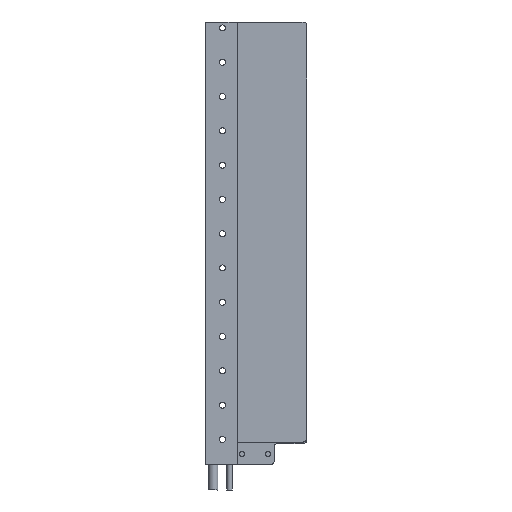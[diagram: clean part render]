
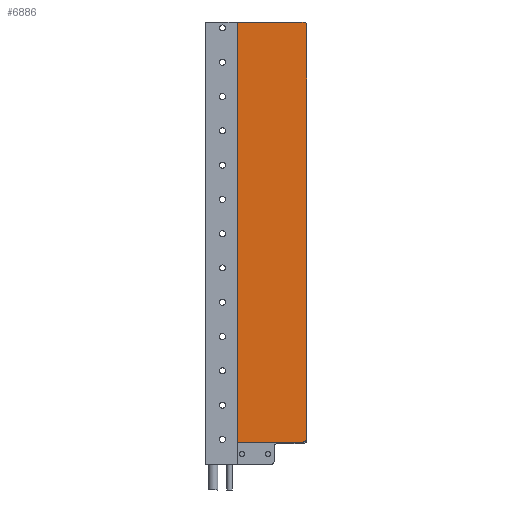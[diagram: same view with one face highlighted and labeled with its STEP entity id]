
A CAD part, front view. The second image highlights one B-rep face of the part: STEP entity #6886.
In plain terms, the highlighted planar face has unit normal (0, -1, 0).
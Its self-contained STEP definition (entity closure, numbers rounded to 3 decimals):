
#33 = CARTESIAN_POINT ( 'NONE',  ( 104.072, 120.292, 338.141 ) ) ;
#69 = CARTESIAN_POINT ( 'NONE',  ( 105.018, 120.292, 336.441 ) ) ;
#205 = CARTESIAN_POINT ( 'NONE',  ( 103.018, 120.292, 336.441 ) ) ;
#390 = CARTESIAN_POINT ( 'NONE',  ( 105.018, 120.292, 95.141 ) ) ;
#624 = CARTESIAN_POINT ( 'NONE',  ( 105.018, 120.292, 344.951 ) ) ;
#968 = ORIENTED_EDGE ( 'NONE', *, *, #7020, .T. ) ;
#978 = VERTEX_POINT ( 'NONE', #3167 ) ;
#994 = CARTESIAN_POINT ( 'NONE',  ( 103.018, 120.292, 95.141 ) ) ;
#1024 = ORIENTED_EDGE ( 'NONE', *, *, #2928, .T. ) ;
#1332 = VERTEX_POINT ( 'NONE', #3197 ) ;
#1396 = CARTESIAN_POINT ( 'NONE',  ( 64.418, 120.292, 344.951 ) ) ;
#1644 = DIRECTION ( 'NONE',  ( -1., 0., 0. ) ) ;
#1684 = DIRECTION ( 'NONE',  ( 1., 0., 0. ) ) ;
#1873 = EDGE_CURVE ( 'NONE', #6380, #7119, #3489, .T. ) ;
#1946 = DIRECTION ( 'NONE',  ( 0., 0., -1. ) ) ;
#2065 = ORIENTED_EDGE ( 'NONE', *, *, #4810, .F. ) ;
#2278 = CIRCLE ( 'NONE', #6290, 2. ) ;
#2347 = DIRECTION ( 'NONE',  ( 0., 0., -1. ) ) ;
#2350 = EDGE_LOOP ( 'NONE', ( #2065, #1024, #4125, #3551, #4743, #968 ) ) ;
#2562 = FACE_OUTER_BOUND ( 'NONE', #2350, .T. ) ;
#2928 = EDGE_CURVE ( 'NONE', #3033, #7119, #4696, .T. ) ;
#2931 = VECTOR ( 'NONE', #1946, 1000. ) ;
#2946 = VECTOR ( 'NONE', #1644, 1000. ) ;
#3033 = VERTEX_POINT ( 'NONE', #69 ) ;
#3167 = CARTESIAN_POINT ( 'NONE',  ( 64.418, 120.292, 93.141 ) ) ;
#3197 = CARTESIAN_POINT ( 'NONE',  ( 103.018, 120.292, 93.141 ) ) ;
#3319 = EDGE_CURVE ( 'NONE', #1332, #978, #6144, .T. ) ;
#3329 = VECTOR ( 'NONE', #1684, 1000. ) ;
#3347 = VERTEX_POINT ( 'NONE', #390 ) ;
#3381 = CARTESIAN_POINT ( 'NONE',  ( 47.918, 120.292, 338.141 ) ) ;
#3489 = LINE ( 'NONE', #3381, #3329 ) ;
#3551 = ORIENTED_EDGE ( 'NONE', *, *, #3783, .T. ) ;
#3783 = EDGE_CURVE ( 'NONE', #6380, #978, #6996, .T. ) ;
#4125 = ORIENTED_EDGE ( 'NONE', *, *, #1873, .F. ) ;
#4163 = DIRECTION ( 'NONE',  ( 0., 1., 0. ) ) ;
#4439 = CARTESIAN_POINT ( 'NONE',  ( 105.018, 120.292, 93.141 ) ) ;
#4696 = CIRCLE ( 'NONE', #7055, 2. ) ;
#4743 = ORIENTED_EDGE ( 'NONE', *, *, #3319, .F. ) ;
#4810 = EDGE_CURVE ( 'NONE', #3033, #3347, #5677, .T. ) ;
#4825 = PLANE ( 'NONE',  #5935 ) ;
#5229 = DIRECTION ( 'NONE',  ( -1., 0., 0. ) ) ;
#5610 = DIRECTION ( 'NONE',  ( -1., 0., 0. ) ) ;
#5677 = LINE ( 'NONE', #624, #6347 ) ;
#5687 = CARTESIAN_POINT ( 'NONE',  ( 64.418, 120.292, 338.141 ) ) ;
#5935 = AXIS2_PLACEMENT_3D ( 'NONE', #7112, #4163, #7074 ) ;
#6144 = LINE ( 'NONE', #4439, #2946 ) ;
#6290 = AXIS2_PLACEMENT_3D ( 'NONE', #994, #7258, #5610 ) ;
#6331 = DIRECTION ( 'NONE',  ( 0., -1., 0. ) ) ;
#6347 = VECTOR ( 'NONE', #2347, 1000. ) ;
#6380 = VERTEX_POINT ( 'NONE', #5687 ) ;
#6886 = ADVANCED_FACE ( 'NONE', ( #2562 ), #4825, .F. ) ;
#6996 = LINE ( 'NONE', #1396, #2931 ) ;
#7020 = EDGE_CURVE ( 'NONE', #1332, #3347, #2278, .T. ) ;
#7055 = AXIS2_PLACEMENT_3D ( 'NONE', #205, #6331, #5229 ) ;
#7074 = DIRECTION ( 'NONE',  ( -1., 0., 0. ) ) ;
#7112 = CARTESIAN_POINT ( 'NONE',  ( 64.418, 120.292, 344.951 ) ) ;
#7119 = VERTEX_POINT ( 'NONE', #33 ) ;
#7258 = DIRECTION ( 'NONE',  ( 0., -1., 0. ) ) ;
